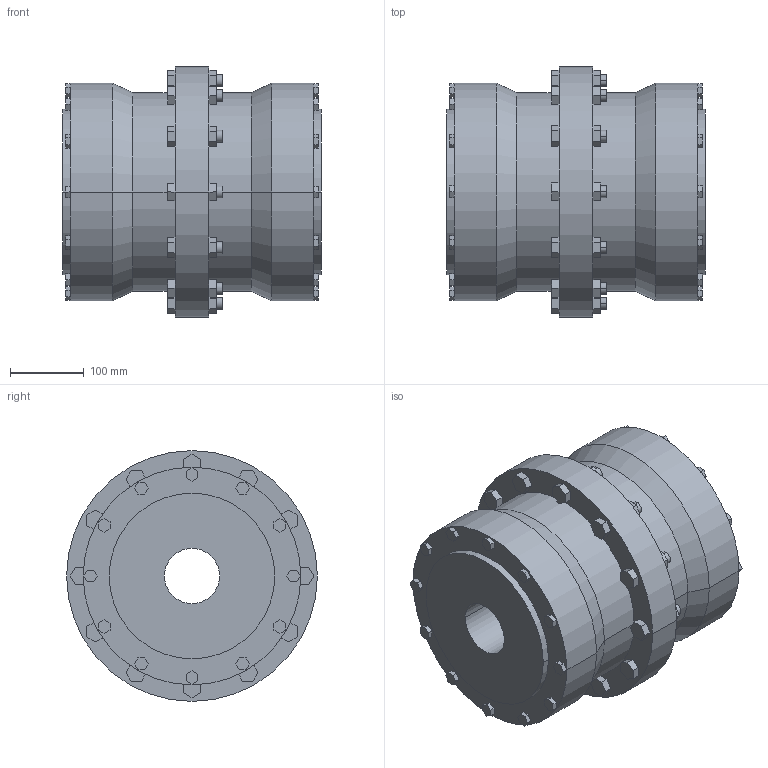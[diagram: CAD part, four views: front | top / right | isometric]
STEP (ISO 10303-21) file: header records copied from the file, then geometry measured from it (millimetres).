
FILE_DESCRIPTION((''),'2;1');
FILE_NAME('A18978900-0_ASM','2019-05-23T',('AB_Roschiwal'),('RENK AG'),'PRO/ENGINEER BY PARAMETRIC TECHNOLOGY CORPORATION, 2015440','PRO/ENGINEER BY PARAMETRIC TECHNOLOGY CORPORATION, 2015440','');
FILE_SCHEMA(('CONFIG_CONTROL_DESIGN'));
Length unit declared in the file: millimetre
Products named in the file (3): SBK140_GEHAEUSE; SBK140_NABE; A18978900-0_ASM
Assembly tree (3 placements, depth 2):
  A18978900-0_ASM
    SBK140_GEHAEUSE
    SBK140_NABE  x2
Bounding box: 350 x 340 x 340 mm (x, y, z)
Volume: 19507267.8 mm3; surface area: 1216338.7 mm2
Topology: 3 solids, 3 shells, 422 faces, 1036 edges, 688 vertices
Faces by surface type: plane 362, cylinder 56, cone 4
Entity records: 12052 total; most frequent: CARTESIAN_POINT 2100, ORIENTED_EDGE 2024, DIRECTION 1940, EDGE_CURVE 1012, VECTOR 916, LINE 916, VERTEX_POINT 672, AXIS2_PLACEMENT_3D 512
